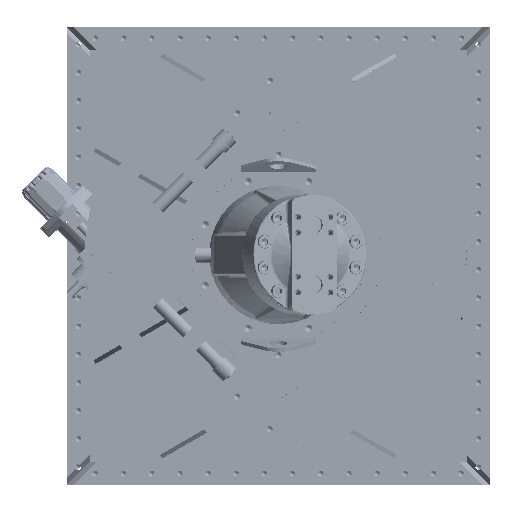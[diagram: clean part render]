
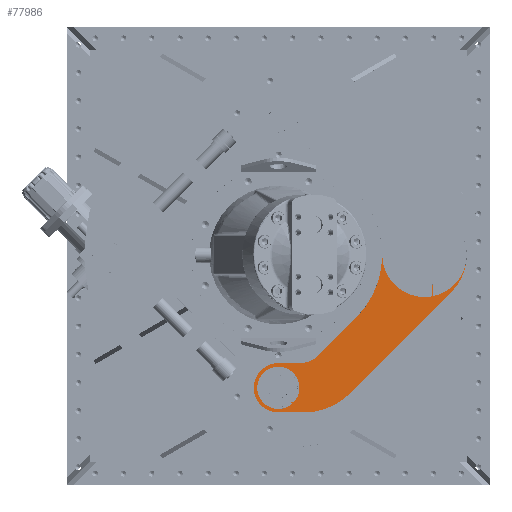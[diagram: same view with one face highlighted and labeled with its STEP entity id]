
A CAD part, top view. The second image highlights one B-rep face of the part: STEP entity #77986.
In plain terms, the highlighted planar face has unit normal (0, 0, 1).
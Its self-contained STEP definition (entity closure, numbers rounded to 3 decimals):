
#3996=FACE_BOUND('',#10958,.T.);
#4831=PLANE('',#82525);
#6518=FACE_OUTER_BOUND('',#10957,.T.);
#10957=EDGE_LOOP('',(#49308,#49309,#49310,#49311,#49312,#49313,#49314,#49315,
#49316,#49317,#49318,#49319,#49320,#49321));
#10958=EDGE_LOOP('',(#49322,#49323));
#16124=CIRCLE('',#82395,52.633);
#16125=CIRCLE('',#82397,52.633);
#16127=CIRCLE('',#82401,120.);
#16158=CIRCLE('',#82448,120.);
#16202=CIRCLE('',#82526,87.5);
#16203=CIRCLE('',#82527,251.421);
#16204=CIRCLE('',#82528,75.);
#16205=CIRCLE('',#82529,70.);
#16206=CIRCLE('',#82530,187.);
#16207=CIRCLE('',#82531,150.);
#20344=LINE('',#111334,#25073);
#20363=LINE('',#111432,#25092);
#20400=LINE('',#111625,#25129);
#20401=LINE('',#111629,#25130);
#20402=LINE('',#111633,#25131);
#20403=LINE('',#111637,#25132);
#25073=VECTOR('',#90509,10.);
#25092=VECTOR('',#90616,10.);
#25129=VECTOR('',#90821,10.);
#25130=VECTOR('',#90824,10.);
#25131=VECTOR('',#90827,10.);
#25132=VECTOR('',#90830,10.);
#29801=VERTEX_POINT('',#111286);
#29803=VERTEX_POINT('',#111298);
#29810=VERTEX_POINT('',#111331);
#29811=VERTEX_POINT('',#111333);
#29813=VERTEX_POINT('',#111339);
#29840=VERTEX_POINT('',#111417);
#29846=VERTEX_POINT('',#111430);
#29850=VERTEX_POINT('',#111443);
#29905=VERTEX_POINT('',#111622);
#29906=VERTEX_POINT('',#111624);
#29907=VERTEX_POINT('',#111626);
#29908=VERTEX_POINT('',#111628);
#29909=VERTEX_POINT('',#111630);
#29910=VERTEX_POINT('',#111632);
#29911=VERTEX_POINT('',#111634);
#29912=VERTEX_POINT('',#111636);
#37473=EDGE_CURVE('',#29803,#29801,#16124,.T.);
#37474=EDGE_CURVE('',#29801,#29803,#16125,.T.);
#37478=EDGE_CURVE('',#29811,#29810,#20344,.T.);
#37481=EDGE_CURVE('',#29813,#29811,#16127,.T.);
#37526=EDGE_CURVE('',#29840,#29846,#20363,.T.);
#37533=EDGE_CURVE('',#29846,#29850,#16158,.T.);
#37613=EDGE_CURVE('',#29810,#29840,#16202,.T.);
#37614=EDGE_CURVE('',#29850,#29905,#16203,.T.);
#37615=EDGE_CURVE('',#29905,#29906,#20400,.T.);
#37616=EDGE_CURVE('',#29907,#29906,#16204,.T.);
#37617=EDGE_CURVE('',#29907,#29908,#20401,.T.);
#37618=EDGE_CURVE('',#29908,#29909,#16205,.T.);
#37619=EDGE_CURVE('',#29909,#29910,#20402,.T.);
#37620=EDGE_CURVE('',#29911,#29910,#16206,.T.);
#37621=EDGE_CURVE('',#29911,#29912,#20403,.T.);
#37622=EDGE_CURVE('',#29912,#29813,#16207,.T.);
#49308=ORIENTED_EDGE('',*,*,#37478,.T.);
#49309=ORIENTED_EDGE('',*,*,#37613,.T.);
#49310=ORIENTED_EDGE('',*,*,#37526,.T.);
#49311=ORIENTED_EDGE('',*,*,#37533,.T.);
#49312=ORIENTED_EDGE('',*,*,#37614,.T.);
#49313=ORIENTED_EDGE('',*,*,#37615,.T.);
#49314=ORIENTED_EDGE('',*,*,#37616,.F.);
#49315=ORIENTED_EDGE('',*,*,#37617,.T.);
#49316=ORIENTED_EDGE('',*,*,#37618,.T.);
#49317=ORIENTED_EDGE('',*,*,#37619,.T.);
#49318=ORIENTED_EDGE('',*,*,#37620,.F.);
#49319=ORIENTED_EDGE('',*,*,#37621,.T.);
#49320=ORIENTED_EDGE('',*,*,#37622,.T.);
#49321=ORIENTED_EDGE('',*,*,#37481,.T.);
#49322=ORIENTED_EDGE('',*,*,#37473,.T.);
#49323=ORIENTED_EDGE('',*,*,#37474,.T.);
#77986=ADVANCED_FACE('',(#6518,#3996),#4831,.T.);
#82395=AXIS2_PLACEMENT_3D('',#111323,#90497,#90498);
#82397=AXIS2_PLACEMENT_3D('',#111325,#90501,#90502);
#82401=AXIS2_PLACEMENT_3D('',#111340,#90514,#90515);
#82448=AXIS2_PLACEMENT_3D('',#111445,#90629,#90630);
#82525=AXIS2_PLACEMENT_3D('',#111620,#90815,#90816);
#82526=AXIS2_PLACEMENT_3D('',#111621,#90817,#90818);
#82527=AXIS2_PLACEMENT_3D('',#111623,#90819,#90820);
#82528=AXIS2_PLACEMENT_3D('',#111627,#90822,#90823);
#82529=AXIS2_PLACEMENT_3D('',#111631,#90825,#90826);
#82530=AXIS2_PLACEMENT_3D('',#111635,#90828,#90829);
#82531=AXIS2_PLACEMENT_3D('',#111638,#90831,#90832);
#90497=DIRECTION('center_axis',(0.,0.,
-1.));
#90498=DIRECTION('ref_axis',(0.,1.,0.));
#90501=DIRECTION('center_axis',(0.,0.,
-1.));
#90502=DIRECTION('ref_axis',(0.,1.,0.));
#90509=DIRECTION('',(0.,1.,0.));
#90514=DIRECTION('center_axis',(0.,0.,
-1.));
#90515=DIRECTION('ref_axis',(0.866,0.5,0.));
#90616=DIRECTION('',(0.,-1.,0.));
#90629=DIRECTION('center_axis',(0.,0.,
-1.));
#90630=DIRECTION('ref_axis',(0.866,0.5,0.));
#90815=DIRECTION('center_axis',(0.,0.,
1.));
#90816=DIRECTION('ref_axis',(0.,-1.,0.));
#90817=DIRECTION('center_axis',(0.,0.,
-1.));
#90818=DIRECTION('ref_axis',(0.,-1.,0.));
#90819=DIRECTION('center_axis',(0.,0.,
-1.));
#90820=DIRECTION('ref_axis',(-1.,0.,0.));
#90821=DIRECTION('',(-0.707,-0.707,0.));
#90822=DIRECTION('center_axis',(0.,0.,
1.));
#90823=DIRECTION('ref_axis',(0.383,-0.924,0.));
#90824=DIRECTION('',(-1.,0.,0.));
#90825=DIRECTION('center_axis',(0.,0.,
1.));
#90826=DIRECTION('ref_axis',(0.,1.,0.));
#90827=DIRECTION('',(1.,0.,0.));
#90828=DIRECTION('center_axis',(0.,0.,
-1.));
#90829=DIRECTION('ref_axis',(0.383,-0.924,0.));
#90830=DIRECTION('',(0.707,0.707,0.));
#90831=DIRECTION('center_axis',(0.,0.,
1.));
#90832=DIRECTION('ref_axis',(0.707,-0.707,0.));
#111286=CARTESIAN_POINT('',(36.99,-415.038,1914.588));
#111298=CARTESIAN_POINT('',(34.796,-417.085,1914.588));
#111323=CARTESIAN_POINT('Origin',(0.,-377.595,
1914.588));
#111325=CARTESIAN_POINT('Origin',(0.,-377.595,
1914.588));
#111331=CARTESIAN_POINT('',(439.,-84.144,1914.588));
#111333=CARTESIAN_POINT('',(439.,-117.576,1914.588));
#111334=CARTESIAN_POINT('',(439.,-223.82,1914.588));
#111339=CARTESIAN_POINT('',(535.,0.,1914.588));
#111340=CARTESIAN_POINT('Origin',(415.,0.,
1914.588));
#111417=CARTESIAN_POINT('',(436.,-84.943,1914.588));
#111430=CARTESIAN_POINT('',(436.,-118.148,1914.588));
#111432=CARTESIAN_POINT('',(436.,-108.349,1914.588));
#111443=CARTESIAN_POINT('',(295.,0.,1914.588));
#111445=CARTESIAN_POINT('Origin',(415.,0.,
1914.588));
#111620=CARTESIAN_POINT('Origin',(243.358,-228.823,1914.588));
#111621=CARTESIAN_POINT('Origin',(415.,0.,
1914.588));
#111622=CARTESIAN_POINT('',(221.36,-177.782,1914.588));
#111623=CARTESIAN_POINT('Origin',(43.579,0.,
1914.588));
#111624=CARTESIAN_POINT('',(113.514,-285.628,1914.588));
#111625=CARTESIAN_POINT('',(221.36,-177.782,1914.588));
#111626=CARTESIAN_POINT('',(60.481,-307.595,1914.588));
#111627=CARTESIAN_POINT('Origin',(60.481,-232.595,1914.588));
#111628=CARTESIAN_POINT('',(0.,-307.595,1914.588));
#111629=CARTESIAN_POINT('',(91.547,-307.595,1914.588));
#111630=CARTESIAN_POINT('',(0.,-447.595,1914.588));
#111631=CARTESIAN_POINT('Origin',(0.,-377.595,
1914.588));
#111632=CARTESIAN_POINT('',(72.079,-447.595,1914.588));
#111633=CARTESIAN_POINT('',(0.,-447.595,1914.588));
#111634=CARTESIAN_POINT('',(204.308,-392.824,1914.588));
#111635=CARTESIAN_POINT('Origin',(72.079,-260.595,1914.588));
#111636=CARTESIAN_POINT('',(491.066,-106.066,1914.588));
#111637=CARTESIAN_POINT('',(149.537,-447.595,1914.588));
#111638=CARTESIAN_POINT('Origin',(385.,0.,1914.588));
